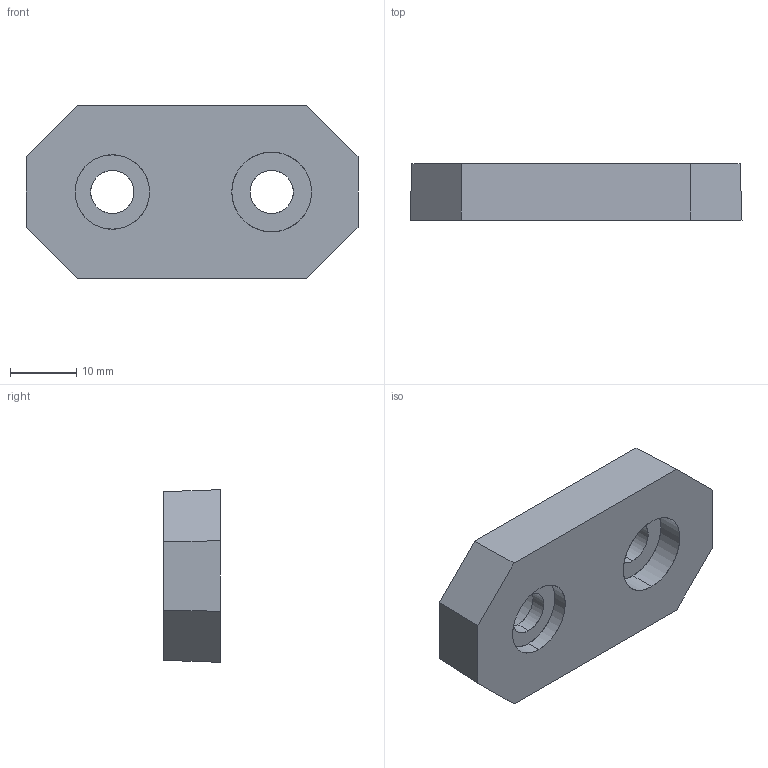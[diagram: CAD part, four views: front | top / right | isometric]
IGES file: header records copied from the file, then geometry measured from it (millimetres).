
Start section: SolidWorks IGES file using analytic representation for surfaces
Global section: file name: G:\3DRAW\EKI\3Dcam\Seinäkiinnikkeet\FP12017.IGS; native system: SolidWorks 2008; preprocessor: SolidWorks 2008; author: KennethW; date: 090331.162433; units: millimetre
Bounding box: 50 x 8.5 x 26 mm (x, y, z)
Surface area: 5165.3 mm2 (no closed solid volume)
Topology: 0 solids, 0 shells, 41 faces, 620 edges, 620 vertices
Faces by surface type: bspline 25, revolution 16
